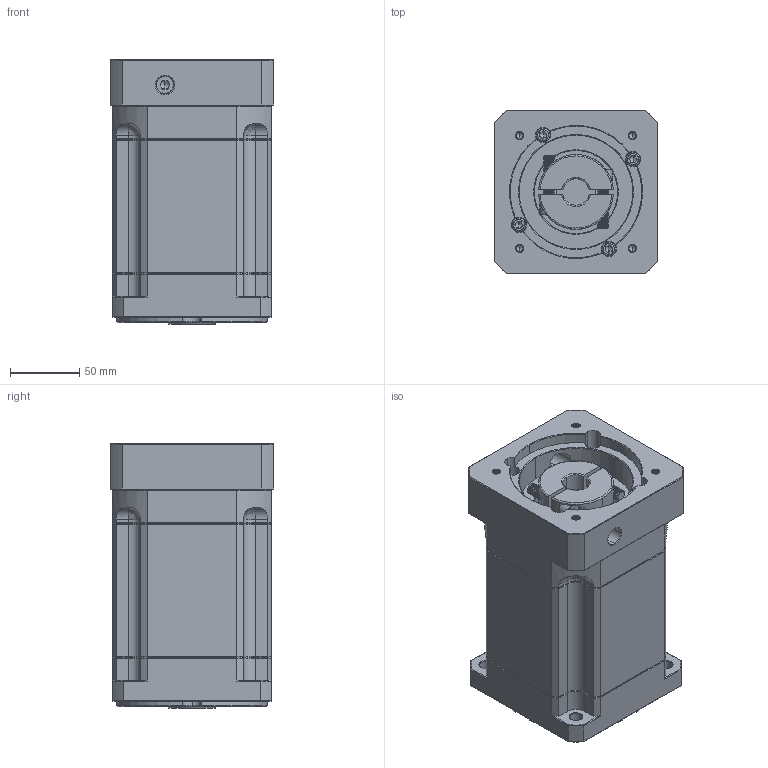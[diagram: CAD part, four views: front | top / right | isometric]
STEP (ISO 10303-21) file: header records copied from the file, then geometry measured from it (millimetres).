
FILE_DESCRIPTION (( 'STEP AP214' ), '1' );
FILE_NAME ('ZB115A-K25-L3-19-95-115-M6.step', '2023-03-02T09:05:36', ( '' ), ( 'Microsoft' ), 'SwSTEP 2.0', 'SolidWorks 2016', '' );
FILE_SCHEMA (( 'AUTOMOTIVE_DESIGN' ));
Length unit declared in the file: millimetre
Products named in the file (1): ZB115A-K25-L3-19-95-115-M6
Bounding box: 118 x 118 x 190.5 mm (x, y, z)
Volume: 2081379.4 mm3; surface area: 183296.5 mm2
Topology: 6 solids, 6 shells, 2049 faces, 5322 edges, 3364 vertices
Faces by surface type: plane 957, cylinder 379, cone 377, bspline 336
Entity records: 105109 total; most frequent: CARTESIAN_POINT 34950, ORIENTED_EDGE 10580, DIRECTION 8779, EDGE_CURVE 5290, VERTEX_POINT 3364, VECTOR 3309, LINE 3309, AXIS2_PLACEMENT_3D 2735
